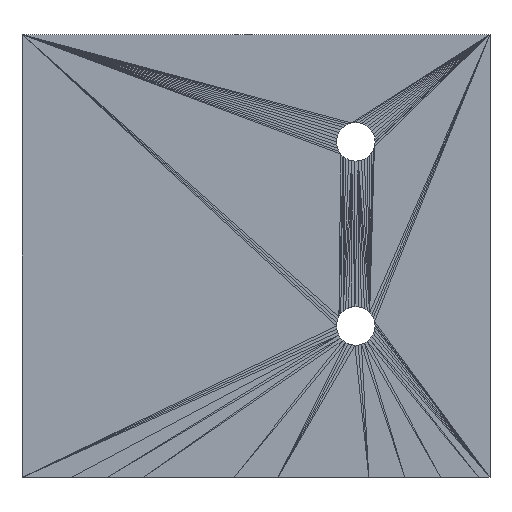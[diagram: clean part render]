
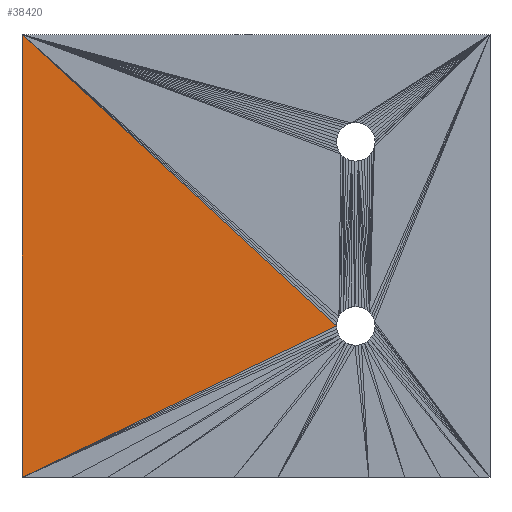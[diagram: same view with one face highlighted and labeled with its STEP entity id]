
A CAD part, front view. The second image highlights one B-rep face of the part: STEP entity #38420.
In plain terms, the highlighted planar face has unit normal (0, -1, 0).
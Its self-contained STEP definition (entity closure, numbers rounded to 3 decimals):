
#396=FACE_OUTER_BOUND('',#3856,.T.);
#3856=EDGE_LOOP('',(#25342,#25343,#25344));
#7552=LINE('',#58318,#12742);
#7553=LINE('',#58320,#12743);
#7554=LINE('',#58321,#12744);
#12742=VECTOR('',#46354,10.);
#12743=VECTOR('',#46357,10.);
#12744=VECTOR('',#46358,10.);
#17447=VERTEX_POINT('',#57605);
#17526=VERTEX_POINT('',#57916);
#17543=VERTEX_POINT('',#58208);
#19626=EDGE_CURVE('',#17526,#17447,#7552,.T.);
#19627=EDGE_CURVE('',#17543,#17447,#7553,.T.);
#19628=EDGE_CURVE('',#17543,#17526,#7554,.T.);
#25342=ORIENTED_EDGE('',*,*,#19627,.T.);
#25343=ORIENTED_EDGE('',*,*,#19626,.F.);
#25344=ORIENTED_EDGE('',*,*,#19628,.F.);
#34960=PLANE('',#41894);
#38420=ADVANCED_FACE('',(#396),#34960,.T.);
#41894=AXIS2_PLACEMENT_3D('',#58319,#46355,#46356);
#46354=DIRECTION('',(0.734,0.,-0.68));
#46355=DIRECTION('center_axis',(0.,-1.,0.));
#46356=DIRECTION('ref_axis',(0.,0.,-1.));
#46357=DIRECTION('',(0.901,0.,0.434));
#46358=DIRECTION('',(0.,0.,1.));
#57605=CARTESIAN_POINT('',(984.606,0.,119.729));
#57916=CARTESIAN_POINT('',(735.977,0.,350.));
#58208=CARTESIAN_POINT('',(735.977,0.,0.));
#58318=CARTESIAN_POINT('',(735.977,0.,350.));
#58319=CARTESIAN_POINT('Origin',(735.977,0.,350.));
#58320=CARTESIAN_POINT('',(735.977,0.,0.));
#58321=CARTESIAN_POINT('',(735.977,0.,0.));
